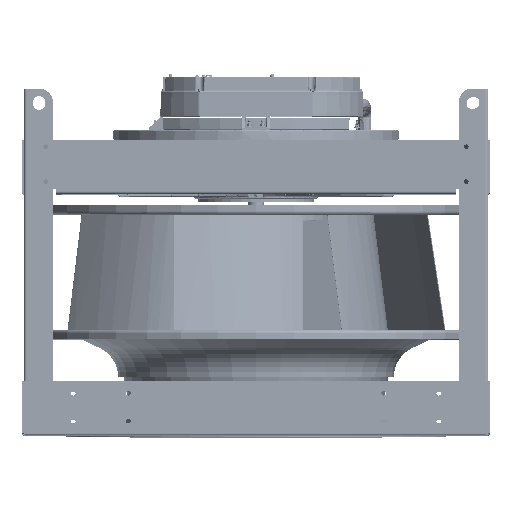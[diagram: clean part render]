
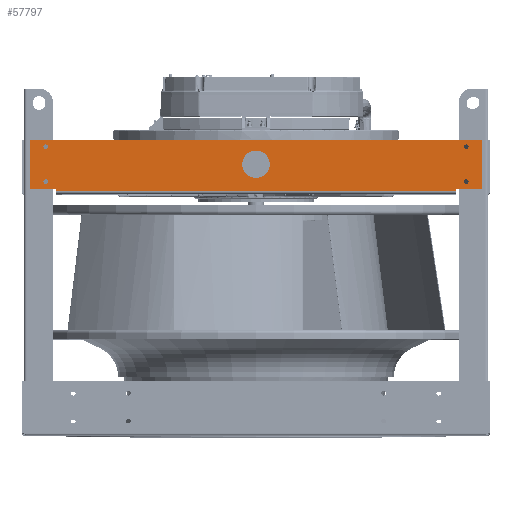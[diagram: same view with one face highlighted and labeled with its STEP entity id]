
A CAD part, top view. The second image highlights one B-rep face of the part: STEP entity #57797.
In plain terms, the highlighted planar face has unit normal (0, 0, 1).
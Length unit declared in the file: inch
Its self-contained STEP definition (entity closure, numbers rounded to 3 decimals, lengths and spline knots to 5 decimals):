
#5722 = ORIENTED_EDGE ( 'NONE', *, *, #255086, .F. ) ;
#6068 = VERTEX_POINT ( 'NONE', #90285 ) ;
#8784 = VERTEX_POINT ( 'NONE', #90654 ) ;
#11829 = EDGE_CURVE ( 'NONE', #192835, #8784, #162420, .T. ) ;
#12078 = AXIS2_PLACEMENT_3D ( 'NONE', #165121, #60088, #144385 ) ;
#14309 = DIRECTION ( 'NONE',  ( 1., 0., 0. ) ) ;
#15056 = PLANE ( 'NONE',  #162712 ) ;
#17599 = LINE ( 'NONE', #267590, #184226 ) ;
#17728 = ORIENTED_EDGE ( 'NONE', *, *, #31107, .F. ) ;
#17956 = ORIENTED_EDGE ( 'NONE', *, *, #63880, .F. ) ;
#20373 = EDGE_CURVE ( 'NONE', #6068, #6068, #118004, .T. ) ;
#27039 = DIRECTION ( 'NONE',  ( -1., 0., 0. ) ) ;
#28833 = AXIS2_PLACEMENT_3D ( 'NONE', #112607, #216316, #27039 ) ;
#30967 = CARTESIAN_POINT ( 'NONE',  ( 15.295, -1.27, 0.135 ) ) ;
#31107 = EDGE_CURVE ( 'NONE', #203452, #203452, #272977, .T. ) ;
#34340 = VECTOR ( 'NONE', #267004, 39.37008 ) ;
#34370 = EDGE_CURVE ( 'NONE', #215285, #256473, #62131, .T. ) ;
#34537 = DIRECTION ( 'NONE',  ( 0., -1., 0. ) ) ;
#37137 = DIRECTION ( 'NONE',  ( 0., 0., -1. ) ) ;
#37522 = VECTOR ( 'NONE', #108572, 39.37008 ) ;
#38751 = AXIS2_PLACEMENT_3D ( 'NONE', #30967, #51638, #14309 ) ;
#51638 = DIRECTION ( 'NONE',  ( 0., 0., 1. ) ) ;
#52167 = ORIENTED_EDGE ( 'NONE', *, *, #235370, .F. ) ;
#55211 = CIRCLE ( 'NONE', #28833, 0.172 ) ;
#56894 = DIRECTION ( 'NONE',  ( 0., 0., 1. ) ) ;
#57797 = ADVANCED_FACE ( 'NONE', ( #57831, #266441, #77197, #161480, #140766, #245753 ), #15056, .F. ) ;
#57831 = FACE_BOUND ( 'NONE', #230903, .T. ) ;
#59059 = VERTEX_POINT ( 'NONE', #143345 ) ;
#60088 = DIRECTION ( 'NONE',  ( 0., 0., 1. ) ) ;
#62131 = LINE ( 'NONE', #150491, #237677 ) ;
#63466 = DIRECTION ( 'NONE',  ( -1., 0., 0. ) ) ;
#63880 = EDGE_CURVE ( 'NONE', #115066, #70513, #265206, .T. ) ;
#64091 = ORIENTED_EDGE ( 'NONE', *, *, #34370, .T. ) ;
#70513 = VERTEX_POINT ( 'NONE', #140743 ) ;
#73213 = CARTESIAN_POINT ( 'NONE',  ( 14.545, 1.9775, 0.135 ) ) ;
#75007 = VERTEX_POINT ( 'NONE', #152690 ) ;
#77197 = FACE_BOUND ( 'NONE', #250817, .T. ) ;
#90285 = CARTESIAN_POINT ( 'NONE',  ( 15.467, -1.27, 0.135 ) ) ;
#90654 = CARTESIAN_POINT ( 'NONE',  ( 16.455, -1.77, 0.135 ) ) ;
#93259 = DIRECTION ( 'NONE',  ( 1., 0., 0. ) ) ;
#94259 = CARTESIAN_POINT ( 'NONE',  ( 15.295, 1.27, 0.135 ) ) ;
#95048 = EDGE_CURVE ( 'NONE', #166456, #166456, #266457, .T. ) ;
#96140 = ORIENTED_EDGE ( 'NONE', *, *, #20373, .F. ) ;
#98505 = CARTESIAN_POINT ( 'NONE',  ( 14.545, 1.9775, 0.135 ) ) ;
#98537 = ORIENTED_EDGE ( 'NONE', *, *, #130963, .T. ) ;
#107674 = DIRECTION ( 'NONE',  ( 0., -1., 0. ) ) ;
#108572 = DIRECTION ( 'NONE',  ( -1., 0., 0. ) ) ;
#112607 = CARTESIAN_POINT ( 'NONE',  ( -15.295, -1.27, 0.135 ) ) ;
#115066 = VERTEX_POINT ( 'NONE', #189903 ) ;
#116165 = ORIENTED_EDGE ( 'NONE', *, *, #136764, .T. ) ;
#116762 = CARTESIAN_POINT ( 'NONE',  ( -16.455, -1.77, 0.135 ) ) ;
#118004 = CIRCLE ( 'NONE', #38751, 0.172 ) ;
#121656 = EDGE_CURVE ( 'NONE', #203106, #70513, #260456, .T. ) ;
#124569 = CARTESIAN_POINT ( 'NONE',  ( 16.455, 1.77, 0.135 ) ) ;
#130963 = EDGE_CURVE ( 'NONE', #115066, #75007, #164800, .T. ) ;
#136402 = VECTOR ( 'NONE', #241581, 39.37008 ) ;
#136764 = EDGE_CURVE ( 'NONE', #256473, #192835, #233425, .T. ) ;
#140743 = CARTESIAN_POINT ( 'NONE',  ( 14.545, 1.77, 0.135 ) ) ;
#140766 = FACE_BOUND ( 'NONE', #212878, .T. ) ;
#142122 = CARTESIAN_POINT ( 'NONE',  ( 0., 0., 0.135 ) ) ;
#143345 = CARTESIAN_POINT ( 'NONE',  ( -15.467, -1.27, 0.135 ) ) ;
#144385 = DIRECTION ( 'NONE',  ( 1., 0., 0. ) ) ;
#145460 = VERTEX_POINT ( 'NONE', #268381 ) ;
#148049 = ORIENTED_EDGE ( 'NONE', *, *, #95048, .F. ) ;
#148758 = EDGE_CURVE ( 'NONE', #75007, #215285, #17599, .T. ) ;
#150491 = CARTESIAN_POINT ( 'NONE',  ( -16.455, 1.77, 0.135 ) ) ;
#152690 = CARTESIAN_POINT ( 'NONE',  ( -14.545, 1.9775, 0.135 ) ) ;
#156065 = VECTOR ( 'NONE', #34537, 39.37008 ) ;
#160596 = ORIENTED_EDGE ( 'NONE', *, *, #148758, .T. ) ;
#160626 = AXIS2_PLACEMENT_3D ( 'NONE', #94259, #56894, #178537 ) ;
#161480 = FACE_BOUND ( 'NONE', #172637, .T. ) ;
#162420 = LINE ( 'NONE', #267359, #240934 ) ;
#162712 = AXIS2_PLACEMENT_3D ( 'NONE', #142122, #37137, #252602 ) ;
#164800 = LINE ( 'NONE', #98505, #34340 ) ;
#165121 = CARTESIAN_POINT ( 'NONE',  ( -15.295, 1.27, 0.135 ) ) ;
#166456 = VERTEX_POINT ( 'NONE', #250741 ) ;
#171258 = ORIENTED_EDGE ( 'NONE', *, *, #121656, .T. ) ;
#172637 = EDGE_LOOP ( 'NONE', ( #17728 ) ) ;
#176208 = DIRECTION ( 'NONE',  ( 0., 0., 1. ) ) ;
#178537 = DIRECTION ( 'NONE',  ( -1., 0., 0. ) ) ;
#179402 = CARTESIAN_POINT ( 'NONE',  ( 16.455, -1.77, 0.135 ) ) ;
#184226 = VECTOR ( 'NONE', #188837, 39.37008 ) ;
#188303 = ORIENTED_EDGE ( 'NONE', *, *, #11829, .T. ) ;
#188837 = DIRECTION ( 'NONE',  ( 0., -1., 0. ) ) ;
#189903 = CARTESIAN_POINT ( 'NONE',  ( 14.545, 1.9775, 0.135 ) ) ;
#192835 = VERTEX_POINT ( 'NONE', #116762 ) ;
#194342 = CARTESIAN_POINT ( 'NONE',  ( -14.545, 1.77, 0.135 ) ) ;
#198261 = CARTESIAN_POINT ( 'NONE',  ( 0., 0., 0.135 ) ) ;
#199356 = AXIS2_PLACEMENT_3D ( 'NONE', #198261, #176208, #93259 ) ;
#203106 = VERTEX_POINT ( 'NONE', #124569 ) ;
#203452 = VERTEX_POINT ( 'NONE', #225534 ) ;
#207503 = VECTOR ( 'NONE', #107674, 39.37008 ) ;
#207854 = CARTESIAN_POINT ( 'NONE',  ( -16.455, 1.77, 0.135 ) ) ;
#209950 = CARTESIAN_POINT ( 'NONE',  ( -16.455, -1.77, 0.135 ) ) ;
#212878 = EDGE_LOOP ( 'NONE', ( #96140 ) ) ;
#213926 = EDGE_CURVE ( 'NONE', #8784, #203106, #245658, .T. ) ;
#215285 = VERTEX_POINT ( 'NONE', #194342 ) ;
#216316 = DIRECTION ( 'NONE',  ( 0., 0., 1. ) ) ;
#217933 = EDGE_LOOP ( 'NONE', ( #148049 ) ) ;
#220867 = CIRCLE ( 'NONE', #199356, 1. ) ;
#225534 = CARTESIAN_POINT ( 'NONE',  ( -15.123, 1.27, 0.135 ) ) ;
#230903 = EDGE_LOOP ( 'NONE', ( #5722 ) ) ;
#233425 = LINE ( 'NONE', #209950, #207503 ) ;
#235370 = EDGE_CURVE ( 'NONE', #59059, #59059, #55211, .T. ) ;
#237677 = VECTOR ( 'NONE', #63466, 39.37008 ) ;
#239731 = CARTESIAN_POINT ( 'NONE',  ( -16.455, 1.77, 0.135 ) ) ;
#240934 = VECTOR ( 'NONE', #264673, 39.37008 ) ;
#241581 = DIRECTION ( 'NONE',  ( 0., 1., 0. ) ) ;
#245658 = LINE ( 'NONE', #179402, #136402 ) ;
#245753 = FACE_BOUND ( 'NONE', #217933, .T. ) ;
#248327 = EDGE_LOOP ( 'NONE', ( #116165, #188303, #266733, #171258, #17956, #98537, #160596, #64091 ) ) ;
#250741 = CARTESIAN_POINT ( 'NONE',  ( 15.123, 1.27, 0.135 ) ) ;
#250817 = EDGE_LOOP ( 'NONE', ( #52167 ) ) ;
#252602 = DIRECTION ( 'NONE',  ( -1., 0., 0. ) ) ;
#255086 = EDGE_CURVE ( 'NONE', #145460, #145460, #220867, .T. ) ;
#256473 = VERTEX_POINT ( 'NONE', #207854 ) ;
#260456 = LINE ( 'NONE', #239731, #37522 ) ;
#264673 = DIRECTION ( 'NONE',  ( 1., 0., 0. ) ) ;
#265206 = LINE ( 'NONE', #73213, #156065 ) ;
#266441 = FACE_OUTER_BOUND ( 'NONE', #248327, .T. ) ;
#266457 = CIRCLE ( 'NONE', #160626, 0.172 ) ;
#266733 = ORIENTED_EDGE ( 'NONE', *, *, #213926, .T. ) ;
#267004 = DIRECTION ( 'NONE',  ( -1., 0., 0. ) ) ;
#267359 = CARTESIAN_POINT ( 'NONE',  ( -16.455, -1.77, 0.135 ) ) ;
#267590 = CARTESIAN_POINT ( 'NONE',  ( -14.545, 1.9775, 0.135 ) ) ;
#268381 = CARTESIAN_POINT ( 'NONE',  ( 1., 0., 0.135 ) ) ;
#272977 = CIRCLE ( 'NONE', #12078, 0.172 ) ;
